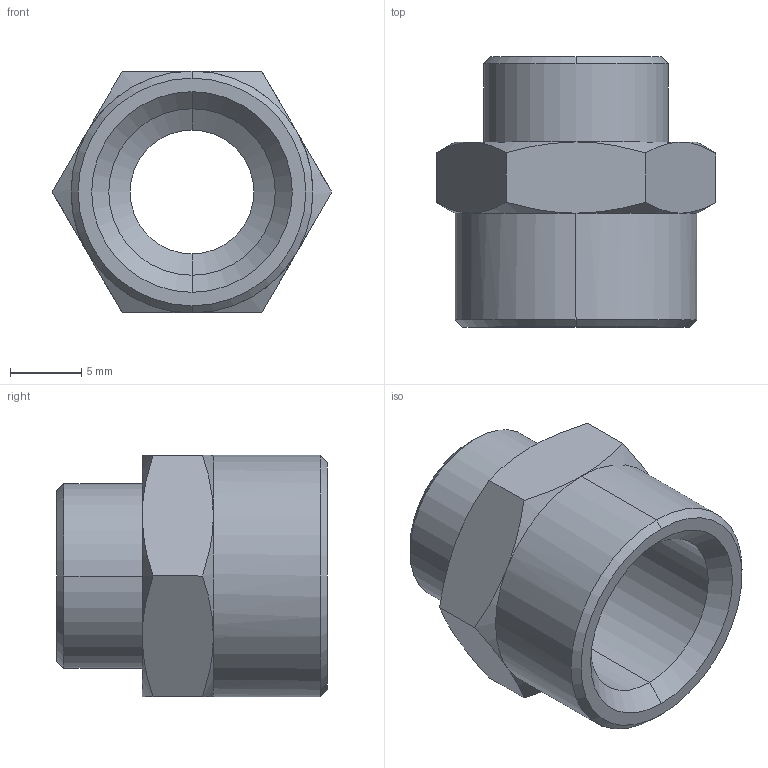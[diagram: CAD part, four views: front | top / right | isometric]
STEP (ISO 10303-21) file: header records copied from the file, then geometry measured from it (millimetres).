
FILE_DESCRIPTION (( 'STEP AP203' ), '1' );
FILE_NAME ('258499.STEP', '2016-06-16T09:50:22', ( '' ), ( '' ), 'SwSTEP 2.0', 'SolidWorks 2016', '' );
FILE_SCHEMA (( 'CONFIG_CONTROL_DESIGN' ));
Length unit declared in the file: millimetre
Products named in the file (1): 258499
Bounding box: 19.63 x 19 x 17 mm (x, y, z)
Volume: 2123.3 mm3; surface area: 1866.1 mm2
Topology: 1 solids, 1 shells, 45 faces, 109 edges, 67 vertices
Faces by surface type: cone 23, plane 14, cylinder 8
Entity records: 1630 total; most frequent: CARTESIAN_POINT 557, ORIENTED_EDGE 218, DIRECTION 190, EDGE_CURVE 109, AXIS2_PLACEMENT_3D 77, VERTEX_POINT 67, EDGE_LOOP 48, ADVANCED_FACE 45
